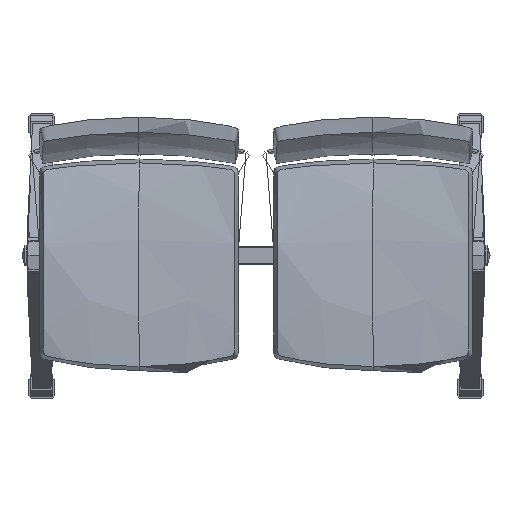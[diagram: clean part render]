
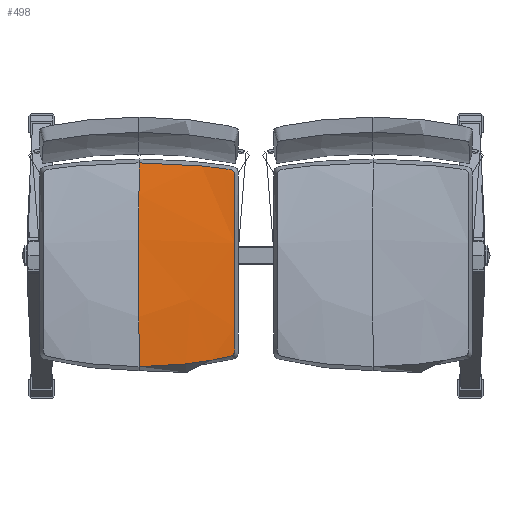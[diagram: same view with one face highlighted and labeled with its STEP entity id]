
A CAD part, top view. The second image highlights one B-rep face of the part: STEP entity #498.
In plain terms, the highlighted free-form (B-spline) face has degree [3, 3] with [6, 5] control points.
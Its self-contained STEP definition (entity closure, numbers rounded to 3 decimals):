
#203=B_SPLINE_SURFACE_WITH_KNOTS('',3,3,((#9650,#9651,#9652,#9653,#9654),
(#9655,#9656,#9657,#9658,#9659),(#9660,#9661,#9662,#9663,#9664),(#9665,
#9666,#9667,#9668,#9669),(#9670,#9671,#9672,#9673,#9674),(#9675,#9676,#9677,
#9678,#9679)),.UNSPECIFIED.,.F.,.F.,.F.,(4,1,1,4),(4,1,4),(0.,150.405,
300.811,451.216),(0.,113.023,226.045),
 .UNSPECIFIED.);
#498=ADVANCED_FACE('',(#870),#203,.T.);
#870=FACE_OUTER_BOUND('',#1242,.T.);
#1242=EDGE_LOOP('',(#2507,#2508));
#2507=ORIENTED_EDGE('',*,*,#3632,.F.);
#2508=ORIENTED_EDGE('',*,*,#3635,.F.);
#3632=EDGE_CURVE('',#4438,#4437,#5486,.T.);
#3635=EDGE_CURVE('',#4437,#4438,#5489,.T.);
#4437=VERTEX_POINT('',#10270);
#4438=VERTEX_POINT('',#10271);
#5486=B_SPLINE_CURVE_WITH_KNOTS('',3,(#10278,#10279,#10280,#10281,#10282,
#10283),.UNSPECIFIED.,.F.,.F.,(4,1,1,4),(14.636,150.405,
300.811,436.736),.UNSPECIFIED.);
#5489=B_SPLINE_CURVE_WITH_KNOTS('',3,(#10354,#10355,#10356,#10357,#10358,
#10359,#10360,#10361,#10362,#10363,#10364,#10365,#10366,#10367,#10368,#10369,
#10370,#10371,#10372,#10373,#10374,#10375,#10376,#10377,#10378,#10379,#10380,
#10381,#10382,#10383,#10384,#10385,#10386,#10387,#10388,#10389,#10390,#10391,
#10392,#10393,#10394,#10395,#10396,#10397,#10398,#10399,#10400,#10401,#10402,
#10403,#10404,#10405,#10406,#10407,#10408,#10409,#10410,#10411,#10412,#10413,
#10414,#10415,#10416,#10417,#10418,#10419),.UNSPECIFIED.,.F.,.F.,(4,2,2,
2,1,1,1,2,2,2,2,2,1,1,1,2,2,2,2,2,2,2,2,2,1,1,1,2,2,2,2,2,1,1,1,2,2,2,4),
(-834.547,-732.977,-707.585,-682.192,
-634.077,-631.407,-628.738,-626.069,
-623.399,-620.73,-618.061,-615.391,
-612.722,-610.053,-607.384,-561.831,
-513.608,-489.497,-465.386,-417.164,
-368.942,-344.831,-320.72,-272.498,
-226.987,-224.275,-221.564,-218.853,
-216.141,-213.43,-210.718,-208.007,
-205.295,-202.584,-199.872,-151.938,
-126.615,-101.292,0.),.UNSPECIFIED.);
#9650=CARTESIAN_POINT('',(-32.5,-227.5,452.92));
#9651=CARTESIAN_POINT('',(-68.664,-237.419,461.436));
#9652=CARTESIAN_POINT('',(-142.418,-252.432,466.217));
#9653=CARTESIAN_POINT('',(-217.473,-257.459,466.479));
#9654=CARTESIAN_POINT('',(-255.,-257.459,466.479));
#9655=CARTESIAN_POINT('',(-32.5,-180.234,461.665));
#9656=CARTESIAN_POINT('',(-68.599,-188.252,471.09));
#9657=CARTESIAN_POINT('',(-142.323,-200.383,474.207));
#9658=CARTESIAN_POINT('',(-217.441,-204.444,473.909));
#9659=CARTESIAN_POINT('',(-255.,-204.444,473.909));
#9660=CARTESIAN_POINT('',(-32.5,-85.677,465.522));
#9661=CARTESIAN_POINT('',(-68.469,-89.935,472.649));
#9662=CARTESIAN_POINT('',(-142.133,-96.362,468.263));
#9663=CARTESIAN_POINT('',(-217.378,-98.511,466.788));
#9664=CARTESIAN_POINT('',(-255.,-98.511,466.788));
#9665=CARTESIAN_POINT('',(-32.5,56.117,460.406));
#9666=CARTESIAN_POINT('',(-68.274,57.366,463.741));
#9667=CARTESIAN_POINT('',(-141.849,59.293,453.584));
#9668=CARTESIAN_POINT('',(-217.283,59.944,450.172));
#9669=CARTESIAN_POINT('',(-255.,59.944,450.172));
#9670=CARTESIAN_POINT('',(-32.5,150.418,449.736));
#9671=CARTESIAN_POINT('',(-68.144,155.229,450.319));
#9672=CARTESIAN_POINT('',(-141.659,162.56,439.981));
#9673=CARTESIAN_POINT('',(-217.22,165.024,435.165));
#9674=CARTESIAN_POINT('',(-255.,165.024,435.165));
#9675=CARTESIAN_POINT('',(-32.5,197.5,437.588));
#9676=CARTESIAN_POINT('',(-68.08,204.063,434.741));
#9677=CARTESIAN_POINT('',(-141.564,214.054,422.229));
#9678=CARTESIAN_POINT('',(-217.188,217.409,416.683));
#9679=CARTESIAN_POINT('',(-255.,217.409,416.683));
#10270=CARTESIAN_POINT('',(-255.,202.275,421.725));
#10271=CARTESIAN_POINT('',(-255.,-241.984,468.345));
#10278=CARTESIAN_POINT('',(-255.,-241.984,468.345));
#10279=CARTESIAN_POINT('',(-255.,-194.136,473.206));
#10280=CARTESIAN_POINT('',(-255.,-93.372,466.249));
#10281=CARTESIAN_POINT('',(-255.,54.859,450.705));
#10282=CARTESIAN_POINT('',(-255.,154.906,436.601));
#10283=CARTESIAN_POINT('',(-255.,202.275,421.725));
#10354=CARTESIAN_POINT('',(-255.,202.275,421.725));
#10355=CARTESIAN_POINT('',(-221.572,202.274,421.725));
#10356=CARTESIAN_POINT('',(-188.167,201.067,423.808));
#10357=CARTESIAN_POINT('',(-146.727,198.045,428.155));
#10358=CARTESIAN_POINT('',(-138.454,197.365,429.119));
#10359=CARTESIAN_POINT('',(-121.936,195.851,431.169));
#10360=CARTESIAN_POINT('',(-113.697,195.018,432.245));
#10361=CARTESIAN_POINT('',(-89.821,192.377,435.343));
#10362=CARTESIAN_POINT('',(-73.485,190.261,437.451));
#10363=CARTESIAN_POINT('',(-55.962,187.674,439.137));
#10364=CARTESIAN_POINT('',(-54.051,187.297,439.337));
#10365=CARTESIAN_POINT('',(-52.697,186.803,439.534));
#10366=CARTESIAN_POINT('',(-51.446,186.216,439.745));
#10367=CARTESIAN_POINT('',(-50.842,185.865,439.863));
#10368=CARTESIAN_POINT('',(-49.727,185.048,440.12));
#10369=CARTESIAN_POINT('',(-49.215,184.581,440.26));
#10370=CARTESIAN_POINT('',(-48.309,183.546,440.555));
#10371=CARTESIAN_POINT('',(-47.916,182.978,440.71));
#10372=CARTESIAN_POINT('',(-47.263,181.775,441.029));
#10373=CARTESIAN_POINT('',(-47.001,181.137,441.193));
#10374=CARTESIAN_POINT('',(-46.601,179.838,441.519));
#10375=CARTESIAN_POINT('',(-46.311,178.451,441.857));
#10376=CARTESIAN_POINT('',(-46.224,176.557,442.302));
#10377=CARTESIAN_POINT('',(-46.258,159.822,446.126));
#10378=CARTESIAN_POINT('',(-46.251,144.125,449.006));
#10379=CARTESIAN_POINT('',(-46.27,113.211,453.722));
#10380=CARTESIAN_POINT('',(-46.276,97.267,455.629));
#10381=CARTESIAN_POINT('',(-46.288,73.289,458.027));
#10382=CARTESIAN_POINT('',(-46.291,65.291,458.748));
#10383=CARTESIAN_POINT('',(-46.299,49.285,460.088));
#10384=CARTESIAN_POINT('',(-46.303,41.276,460.707));
#10385=CARTESIAN_POINT('',(-46.314,17.243,462.414));
#10386=CARTESIAN_POINT('',(-46.322,1.206,463.35));
#10387=CARTESIAN_POINT('',(-46.337,-30.887,464.815));
#10388=CARTESIAN_POINT('',(-46.344,-46.942,465.344));
#10389=CARTESIAN_POINT('',(-46.356,-71.031,465.833));
#10390=CARTESIAN_POINT('',(-46.359,-79.063,465.945));
#10391=CARTESIAN_POINT('',(-46.367,-95.124,466.068));
#10392=CARTESIAN_POINT('',(-46.371,-103.157,466.078));
#10393=CARTESIAN_POINT('',(-46.382,-127.252,465.877));
#10394=CARTESIAN_POINT('',(-46.391,-143.304,465.433));
#10395=CARTESIAN_POINT('',(-46.401,-174.505,463.545));
#10396=CARTESIAN_POINT('',(-46.422,-190.395,462.101));
#10397=CARTESIAN_POINT('',(-46.404,-207.426,459.773));
#10398=CARTESIAN_POINT('',(-46.494,-209.362,459.519));
#10399=CARTESIAN_POINT('',(-46.782,-210.795,459.378));
#10400=CARTESIAN_POINT('',(-47.174,-212.142,459.27));
#10401=CARTESIAN_POINT('',(-47.43,-212.807,459.23));
#10402=CARTESIAN_POINT('',(-48.065,-214.072,459.185));
#10403=CARTESIAN_POINT('',(-48.445,-214.674,459.18));
#10404=CARTESIAN_POINT('',(-49.32,-215.787,459.206));
#10405=CARTESIAN_POINT('',(-49.815,-216.298,459.238));
#10406=CARTESIAN_POINT('',(-50.893,-217.21,459.334));
#10407=CARTESIAN_POINT('',(-51.478,-217.613,459.4));
#10408=CARTESIAN_POINT('',(-52.694,-218.306,459.554));
#10409=CARTESIAN_POINT('',(-54.018,-218.912,459.74));
#10410=CARTESIAN_POINT('',(-55.882,-219.435,460.046));
#10411=CARTESIAN_POINT('',(-73.089,-223.338,462.888));
#10412=CARTESIAN_POINT('',(-89.35,-226.584,464.503));
#10413=CARTESIAN_POINT('',(-113.22,-230.666,466.076));
#10414=CARTESIAN_POINT('',(-121.482,-231.96,466.471));
#10415=CARTESIAN_POINT('',(-138.061,-234.316,467.095));
#10416=CARTESIAN_POINT('',(-146.368,-235.377,467.33));
#10417=CARTESIAN_POINT('',(-187.978,-240.093,468.307));
#10418=CARTESIAN_POINT('',(-221.491,-241.984,468.344));
#10419=CARTESIAN_POINT('',(-255.,-241.984,468.345));
